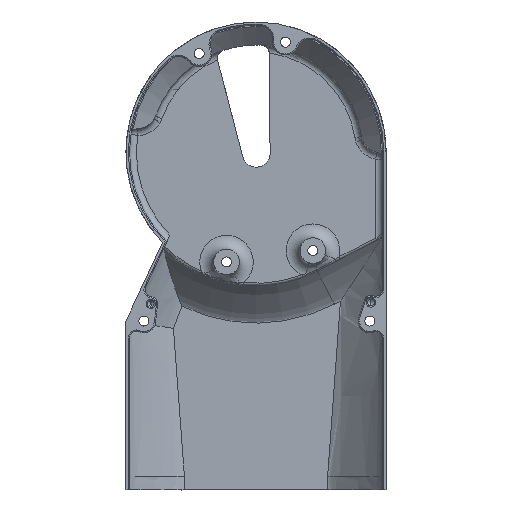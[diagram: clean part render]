
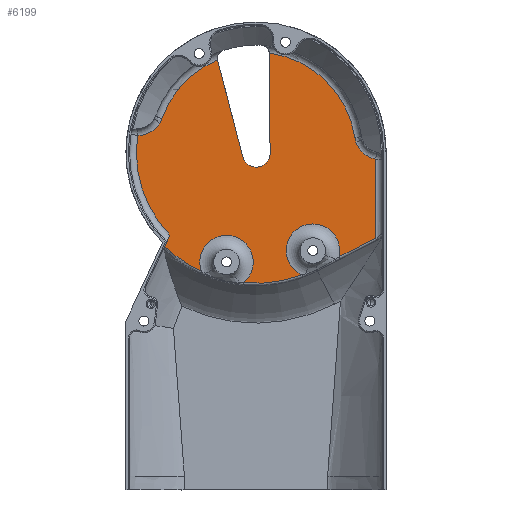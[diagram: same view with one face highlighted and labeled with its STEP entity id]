
A CAD part, front view. The second image highlights one B-rep face of the part: STEP entity #6199.
In plain terms, the highlighted planar face has unit normal (0, -1, 0).
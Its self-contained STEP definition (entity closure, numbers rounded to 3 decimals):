
#1551=DIRECTION('',(0.889,0.,0.458));
#1552=VECTOR('',#1551,17.81);
#1553=CARTESIAN_POINT('',(161.667,33.85,-139.182));
#1554=LINE('',#1553,#1552);
#1555=CARTESIAN_POINT('',(150.5,33.85,-136.435));
#1556=DIRECTION('',(0.,-1.,0.));
#1557=DIRECTION('',(0.971,0.,-0.239));
#1558=AXIS2_PLACEMENT_3D('',#1555,#1556,#1557);
#1560=CARTESIAN_POINT('',(150.5,33.85,-136.435));
#1561=DIRECTION('',(0.,-1.,0.));
#1562=DIRECTION('',(0.,0.,1.));
#1563=AXIS2_PLACEMENT_3D('',#1560,#1561,#1562);
#1565=CARTESIAN_POINT('',(126.,33.85,-94.));
#1566=DIRECTION('',(0.,-1.,0.));
#1567=DIRECTION('',(-0.096,0.,-0.995));
#1568=AXIS2_PLACEMENT_3D('',#1565,#1566,#1567);
#1570=CARTESIAN_POINT('',(113.318,33.85,-141.33));
#1571=DIRECTION('',(0.,-1.,0.));
#1572=DIRECTION('',(0.632,0.,-0.775));
#1573=AXIS2_PLACEMENT_3D('',#1570,#1571,#1572);
#1575=CARTESIAN_POINT('',(113.318,33.85,-141.33));
#1576=DIRECTION('',(0.,-1.,0.));
#1577=DIRECTION('',(0.,0.,1.));
#1578=AXIS2_PLACEMENT_3D('',#1575,#1576,#1577);
#1580=CARTESIAN_POINT('',(126.,33.85,-94.));
#1581=DIRECTION('',(0.,-1.,0.));
#1582=DIRECTION('',(-0.696,0.,-0.718));
#1583=AXIS2_PLACEMENT_3D('',#1580,#1581,#1582);
#1585=DIRECTION('',(0.423,0.,0.906));
#1586=VECTOR('',#1585,5.323);
#1587=CARTESIAN_POINT('',(86.672,33.85,-134.565));
#1588=LINE('',#1587,#1586);
#1589=CARTESIAN_POINT('',(126.,33.85,-94.));
#1590=DIRECTION('',(0.,1.,0.));
#1591=DIRECTION('',(-0.72,0.,-0.694));
#1592=AXIS2_PLACEMENT_3D('',#1589,#1590,#1591);
#1594=CARTESIAN_POINT('',(75.147,33.85,-75.836));
#1595=DIRECTION('',(0.,-1.,0.));
#1596=DIRECTION('',(-0.013,0.,-1.));
#1597=AXIS2_PLACEMENT_3D('',#1594,#1595,#1596);
#1599=CARTESIAN_POINT('',(75.147,33.85,-75.836));
#1600=DIRECTION('',(0.,-1.,0.));
#1601=DIRECTION('',(0.,0.,-1.));
#1602=AXIS2_PLACEMENT_3D('',#1599,#1600,#1601);
#1604=CARTESIAN_POINT('',(84.681,33.85,-81.322));
#1605=CARTESIAN_POINT('',(85.011,33.85,-80.748));
#1606=CARTESIAN_POINT('',(85.282,33.85,-80.151));
#1607=CARTESIAN_POINT('',(85.502,33.85,-79.535));
#1609=CARTESIAN_POINT('',(126.,33.85,-94.));
#1610=DIRECTION('',(0.,1.,0.));
#1611=DIRECTION('',(-0.942,0.,0.336));
#1612=AXIS2_PLACEMENT_3D('',#1609,#1610,#1611);
#1614=CARTESIAN_POINT('',(112.867,33.85,-53.58));
#1615=DIRECTION('',(0.,-1.,0.));
#1616=DIRECTION('',(-0.978,0.,-0.209));
#1617=AXIS2_PLACEMENT_3D('',#1614,#1615,#1616);
#1619=DIRECTION('',(0.251,0.,-0.968));
#1620=VECTOR('',#1619,42.919);
#1621=CARTESIAN_POINT('',(109.479,33.85,-54.459));
#1622=LINE('',#1621,#1620);
#1623=CARTESIAN_POINT('',(126.065,33.85,-94.496));
#1624=DIRECTION('',(0.,-1.,0.));
#1625=DIRECTION('',(-0.968,0.,-0.251));
#1626=AXIS2_PLACEMENT_3D('',#1623,#1624,#1625);
#1628=CARTESIAN_POINT('',(126.065,33.85,-94.496));
#1629=DIRECTION('',(0.,-1.,0.));
#1630=DIRECTION('',(0.,0.,-1.));
#1631=AXIS2_PLACEMENT_3D('',#1628,#1629,#1630);
#1633=DIRECTION('',(-0.008,0.,1.));
#1634=VECTOR('',#1633,42.919);
#1635=CARTESIAN_POINT('',(132.065,33.85,-94.448));
#1636=LINE('',#1635,#1634);
#1637=CARTESIAN_POINT('',(128.224,33.85,-51.558));
#1638=DIRECTION('',(0.,-1.,0.));
#1639=DIRECTION('',(1.,0.,0.008));
#1640=AXIS2_PLACEMENT_3D('',#1637,#1638,#1639);
#1642=CARTESIAN_POINT('',(126.,33.85,-94.));
#1643=DIRECTION('',(0.,1.,0.));
#1644=DIRECTION('',(0.133,0.,0.991));
#1645=AXIS2_PLACEMENT_3D('',#1642,#1643,#1644);
#1647=CARTESIAN_POINT('',(168.549,33.85,-87.765));
#1648=CARTESIAN_POINT('',(168.644,33.85,-88.412));
#1649=CARTESIAN_POINT('',(168.793,33.85,-89.051));
#1650=CARTESIAN_POINT('',(169.004,33.85,-89.679));
#1652=CARTESIAN_POINT('',(179.429,33.85,-86.171));
#1653=DIRECTION('',(0.,-1.,0.));
#1654=DIRECTION('',(-0.948,0.,-0.319));
#1655=AXIS2_PLACEMENT_3D('',#1652,#1653,#1654);
#1733=CARTESIAN_POINT('',(177.5,33.85,-131.025));
#1744=DIRECTION('',(0.,0.,1.));
#1745=VECTOR('',#1744,34.025);
#1746=CARTESIAN_POINT('',(177.5,33.85,-131.025));
#1747=LINE('',#1746,#1745);
#2266=CARTESIAN_POINT('',(88.921,33.85,-129.741));
#2299=CARTESIAN_POINT('',(102.566,33.85,-145.411));
#2338=CARTESIAN_POINT('',(145.783,33.85,-146.923));
#4192=VERTEX_POINT('',#2266);
#4282=CARTESIAN_POINT('',(177.5,33.85,-97.));
#4283=VERTEX_POINT('',#4282);
#4284=CARTESIAN_POINT('',(75.001,33.85,-86.835));
#4285=VERTEX_POINT('',#4284);
#4286=CARTESIAN_POINT('',(75.147,33.85,-86.836));
#4287=CARTESIAN_POINT('',(84.681,33.85,-81.322));
#4288=VERTEX_POINT('',#4286);
#4289=VERTEX_POINT('',#4287);
#4290=VERTEX_POINT('',#1607);
#4291=CARTESIAN_POINT('',(109.444,33.85,-54.311));
#4292=VERTEX_POINT('',#4291);
#4293=CARTESIAN_POINT('',(109.479,33.85,-54.459));
#4294=VERTEX_POINT('',#4293);
#4295=CARTESIAN_POINT('',(120.258,33.85,-96.003));
#4296=VERTEX_POINT('',#4295);
#4297=CARTESIAN_POINT('',(126.065,33.85,-100.496));
#4298=CARTESIAN_POINT('',(132.065,33.85,-94.448));
#4299=VERTEX_POINT('',#4297);
#4300=VERTEX_POINT('',#4298);
#4301=CARTESIAN_POINT('',(131.724,33.85,-51.53));
#4302=VERTEX_POINT('',#4301);
#4303=CARTESIAN_POINT('',(131.72,33.85,-51.378));
#4304=VERTEX_POINT('',#4303);
#4305=CARTESIAN_POINT('',(168.549,33.85,-87.765));
#4306=VERTEX_POINT('',#4305);
#4307=VERTEX_POINT('',#1650);
#4569=VERTEX_POINT('',#1733);
#4571=CARTESIAN_POINT('',(161.667,33.85,-139.182));
#4572=VERTEX_POINT('',#4571);
#4583=VERTEX_POINT('',#2338);
#4585=CARTESIAN_POINT('',(120.589,33.85,-150.24));
#4586=VERTEX_POINT('',#4585);
#4593=VERTEX_POINT('',#2299);
#4595=CARTESIAN_POINT('',(86.672,33.85,-134.565));
#4596=VERTEX_POINT('',#4595);
#4599=CARTESIAN_POINT('',(150.5,33.85,-124.935));
#4600=VERTEX_POINT('',#4599);
#4601=CARTESIAN_POINT('',(113.318,33.85,-129.83));
#4602=VERTEX_POINT('',#4601);
#6150=CARTESIAN_POINT('',(0.,33.85,-94.));
#6151=DIRECTION('',(0.,-1.,0.));
#6152=DIRECTION('',(1.,0.,0.));
#6153=AXIS2_PLACEMENT_3D('',#6150,#6151,#6152);
#6154=PLANE('',#6153);
#6156=ORIENTED_EDGE('',*,*,#6155,.F.);
#6158=ORIENTED_EDGE('',*,*,#6157,.T.);
#6160=ORIENTED_EDGE('',*,*,#6159,.T.);
#6162=ORIENTED_EDGE('',*,*,#6161,.F.);
#6164=ORIENTED_EDGE('',*,*,#6163,.T.);
#6166=ORIENTED_EDGE('',*,*,#6165,.T.);
#6168=ORIENTED_EDGE('',*,*,#6167,.F.);
#6170=ORIENTED_EDGE('',*,*,#6169,.T.);
#6172=ORIENTED_EDGE('',*,*,#6171,.T.);
#6174=ORIENTED_EDGE('',*,*,#6173,.T.);
#6176=ORIENTED_EDGE('',*,*,#6175,.T.);
#6178=ORIENTED_EDGE('',*,*,#6177,.T.);
#6180=ORIENTED_EDGE('',*,*,#6179,.T.);
#6181=ORIENTED_EDGE('',*,*,#5994,.T.);
#6182=ORIENTED_EDGE('',*,*,#6024,.T.);
#6184=ORIENTED_EDGE('',*,*,#6183,.T.);
#6186=ORIENTED_EDGE('',*,*,#6185,.T.);
#6187=ORIENTED_EDGE('',*,*,#6131,.T.);
#6188=ORIENTED_EDGE('',*,*,#5962,.T.);
#6190=ORIENTED_EDGE('',*,*,#6189,.T.);
#6192=ORIENTED_EDGE('',*,*,#6191,.T.);
#6194=ORIENTED_EDGE('',*,*,#6193,.T.);
#6196=ORIENTED_EDGE('',*,*,#6195,.F.);
#6197=EDGE_LOOP('',(#6156,#6158,#6160,#6162,#6164,#6166,#6168,#6170,#6172,#6174,
#6176,#6178,#6180,#6181,#6182,#6184,#6186,#6187,#6188,#6190,#6192,#6194,#6196));
#6198=FACE_OUTER_BOUND('',#6197,.F.);
#6199=ADVANCED_FACE('',(#6198),#6154,.T.);
#1559=CIRCLE('',#1558,11.5);
#1564=CIRCLE('',#1563,11.5);
#1569=CIRCLE('',#1568,56.5);
#1574=CIRCLE('',#1573,11.5);
#1579=CIRCLE('',#1578,11.5);
#1584=CIRCLE('',#1583,56.5);
#1593=CIRCLE('',#1592,51.5);
#1598=CIRCLE('',#1597,11.);
#1603=CIRCLE('',#1602,11.);
#1608=B_SPLINE_CURVE_WITH_KNOTS('',3,(#1604,#1605,#1606,#1607),.UNSPECIFIED.,
.F.,.F.,(4,4),(0.,1.),.UNSPECIFIED.);
#1613=CIRCLE('',#1612,43.004);
#1618=CIRCLE('',#1617,3.5);
#1627=CIRCLE('',#1626,6.);
#1632=CIRCLE('',#1631,6.);
#1641=CIRCLE('',#1640,3.5);
#1646=CIRCLE('',#1645,43.004);
#1651=B_SPLINE_CURVE_WITH_KNOTS('',3,(#1647,#1648,#1649,#1650),.UNSPECIFIED.,
.F.,.F.,(4,4),(0.,1.),.UNSPECIFIED.);
#1656=CIRCLE('',#1655,11.);
#5962=EDGE_CURVE('',#4302,#4304,#1641,.T.);
#5994=EDGE_CURVE('',#4292,#4294,#1618,.T.);
#6024=EDGE_CURVE('',#4294,#4296,#1622,.T.);
#6131=EDGE_CURVE('',#4300,#4302,#1636,.T.);
#6155=EDGE_CURVE('',#4572,#4569,#1554,.T.);
#6157=EDGE_CURVE('',#4572,#4600,#1559,.T.);
#6159=EDGE_CURVE('',#4600,#4583,#1564,.T.);
#6161=EDGE_CURVE('',#4586,#4583,#1569,.T.);
#6163=EDGE_CURVE('',#4586,#4602,#1574,.T.);
#6165=EDGE_CURVE('',#4602,#4593,#1579,.T.);
#6167=EDGE_CURVE('',#4596,#4593,#1584,.T.);
#6169=EDGE_CURVE('',#4596,#4192,#1588,.T.);
#6171=EDGE_CURVE('',#4192,#4285,#1593,.T.);
#6173=EDGE_CURVE('',#4285,#4288,#1598,.T.);
#6175=EDGE_CURVE('',#4288,#4289,#1603,.T.);
#6177=EDGE_CURVE('',#4289,#4290,#1608,.T.);
#6179=EDGE_CURVE('',#4290,#4292,#1613,.T.);
#6183=EDGE_CURVE('',#4296,#4299,#1627,.T.);
#6185=EDGE_CURVE('',#4299,#4300,#1632,.T.);
#6189=EDGE_CURVE('',#4304,#4306,#1646,.T.);
#6191=EDGE_CURVE('',#4306,#4307,#1651,.T.);
#6193=EDGE_CURVE('',#4307,#4283,#1656,.T.);
#6195=EDGE_CURVE('',#4569,#4283,#1747,.T.);
